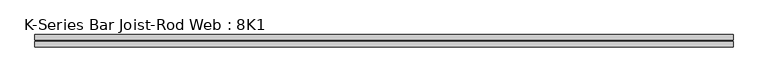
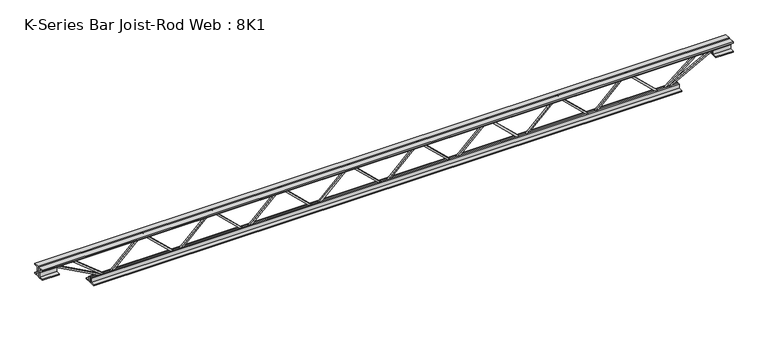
"""IFC4 building model written with IfcOpenShell, lengths in millimetres: beam geometry, K-Series Bar Joist-Rod Web : 8K1."""

from ifc_helpers import new_model, si_unit, frame, origin, place, context, project, spatial, polyline, outline, extrude, source, transform, mapped, element, save


def k_series_bar_joist_rod_web_8k1_5e61e8aa(model_context):
    return source(origin(), model_context, "Body", "SweptSolid", [
        extrude(outline(polyline([(-90.4875, 818.071879), (-100.0125, 818.071879), (-100.0125, 823.1647607), (90.4875, 1021.3327305), (90.4875, 1023.8469671), (-100.0125, 1222.0149368), (-100.0125, 1227.1078185), (-90.4875, 1227.1078185), (-90.4875, 1225.8507002), (100.0125, 1027.6827305), (100.0125, 1017.4969671), (-90.4875, 819.3289973), (-90.4875, 818.071879)])), frame((0.0, -4.7625, 0.0), z_axis=(0.0, 1.0, 0.0), x_axis=(0.0, 0.0, 1.0)), (0.0, 0.0, 1.0), 9.525),
        extrude(outline(polyline([(-90.4875, 409.0359395), (-100.0125, 409.0359395), (-100.0125, 414.1288212), (90.4875, 612.296791), (90.4875, 614.8110276), (-100.0125, 812.9789973), (-100.0125, 818.071879), (-90.4875, 818.071879), (-90.4875, 816.8147607), (100.0125, 618.646791), (100.0125, 608.4610276), (-90.4875, 410.2930578), (-90.4875, 409.0359395)])), frame((0.0, -4.7625, 0.0), z_axis=(0.0, 1.0, 0.0), x_axis=(0.0, 0.0, 1.0)), (0.0, 0.0, 1.0), 9.525),
        extrude(outline(polyline([(-90.4875, 0.0), (-100.0125, 0.0), (-100.0125, 5.0928817), (90.4875, 203.2608514), (90.4875, 205.7750881), (-100.0125, 403.9430578), (-100.0125, 409.0359395), (-90.4875, 409.0359395), (-90.4875, 407.7788212), (100.0125, 209.6108514), (100.0125, 199.4250881), (-90.4875, 1.2571183), (-90.4875, 0.0)])), frame((0.0, -4.7625, 0.0), z_axis=(0.0, 1.0, 0.0), x_axis=(0.0, 0.0, 1.0)), (0.0, 0.0, 1.0), 9.525),
        extrude(outline(polyline([(-90.4875, -409.0359395), (-100.0125, -409.0359395), (-100.0125, -403.9430578), (90.4875, -205.7750881), (90.4875, -203.2608514), (-100.0125, -5.0928817), (-100.0125, 0.0), (-90.4875, 0.0), (-90.4875, -1.2571183), (100.0125, -199.4250881), (100.0125, -209.6108514), (-90.4875, -407.7788212), (-90.4875, -409.0359395)])), frame((0.0, -4.7625, 0.0), z_axis=(0.0, 1.0, 0.0), x_axis=(0.0, 0.0, 1.0)), (0.0, 0.0, 1.0), 9.525),
        extrude(outline(polyline([(-90.4875, -818.071879), (-100.0125, -818.071879), (-100.0125, -812.9789973), (90.4875, -614.8110276), (90.4875, -612.296791), (-100.0125, -414.1288212), (-100.0125, -409.0359395), (-90.4875, -409.0359395), (-90.4875, -410.2930578), (100.0125, -608.4610276), (100.0125, -618.646791), (-90.4875, -816.8147607), (-90.4875, -818.071879)])), frame((0.0, -4.7625, 0.0), z_axis=(0.0, 1.0, 0.0), x_axis=(0.0, 0.0, 1.0)), (0.0, 0.0, 1.0), 9.525),
        extrude(outline(polyline([(-90.4875, -1227.1078185), (-100.0125, -1227.1078185), (-100.0125, -1222.0149368), (90.4875, -1023.8469671), (90.4875, -1021.3327305), (-100.0125, -823.1647607), (-100.0125, -818.071879), (-90.4875, -818.071879), (-90.4875, -819.3289973), (100.0125, -1017.4969671), (100.0125, -1027.6827305), (-90.4875, -1225.8507002), (-90.4875, -1227.1078185)])), frame((0.0, -4.7625, 0.0), z_axis=(0.0, 1.0, 0.0), x_axis=(0.0, 0.0, 1.0)), (0.0, 0.0, 1.0), 9.525),
        extrude(outline(polyline([(-90.4875, 1227.1078185), (-100.0125, 1227.1078185), (-100.0125, 1232.2007002), (90.4875, 1430.36867), (90.4875, 1432.8829066), (-100.0125, 1631.0508764), (-100.0125, 1636.143758), (-90.4875, 1636.143758), (-90.4875, 1634.8866397), (100.0125, 1436.71867), (100.0125, 1426.5329066), (-90.4875, 1228.3649368), (-90.4875, 1227.1078185)])), frame((0.0, -4.7625, 0.0), z_axis=(0.0, 1.0, 0.0), x_axis=(0.0, 0.0, 1.0)), (0.0, 0.0, 1.0), 9.525),
        extrude(outline(polyline([(-90.4875, -1636.143758), (-100.0125, -1636.143758), (-100.0125, -1631.0508764), (90.4875, -1432.8829066), (90.4875, -1430.36867), (-100.0125, -1232.2007002), (-100.0125, -1227.1078185), (-90.4875, -1227.1078185), (-90.4875, -1228.3649368), (100.0125, -1426.5329066), (100.0125, -1436.71867), (-90.4875, -1634.8866397), (-90.4875, -1636.143758)])), frame((0.0, -4.7625, 0.0), z_axis=(0.0, 1.0, 0.0), x_axis=(0.0, 0.0, 1.0)), (0.0, 0.0, 1.0), 9.525),
        extrude(outline(polyline([(4.7625, 101.6), (36.5125, 101.6), (36.5125, 95.25), (11.1125, 95.25), (11.1125, 69.85), (4.7625, 69.85), (4.7625, 101.6)])), frame((-2042.543758, 0.0, 0.0), z_axis=(1.0, 0.0, 0.0), x_axis=(0.0, 1.0, 0.0)), (0.0, 0.0, 1.0), 4085.0875161),
        extrude(outline(polyline([(-4.7625, 101.6), (-4.7625, 69.85), (-11.1125, 69.85), (-11.1125, 95.25), (-36.5125, 95.25), (-36.5125, 101.6), (-4.7625, 101.6)])), frame((-2042.543758, 0.0, 0.0), z_axis=(1.0, 0.0, 0.0), x_axis=(0.0, 1.0, 0.0)), (0.0, 0.0, 1.0), 4085.0875161),
        extrude(outline(polyline([(-4.7625, 38.1), (-36.5125, 38.1), (-36.5125, 44.45), (-11.1125, 44.45), (-11.1125, 69.85), (-4.7625, 69.85), (-4.7625, 38.1)])), frame((-2042.543758, 0.0, 0.0), z_axis=(1.0, 0.0, 0.0), x_axis=(0.0, 1.0, 0.0)), (0.0, 0.0, 1.0), 101.6),
        extrude(outline(polyline([(36.5125, 38.1), (4.7625, 38.1), (4.7625, 69.85), (11.1125, 69.85), (11.1125, 44.45), (36.5125, 44.45), (36.5125, 38.1)])), frame((-2042.543758, 0.0, 0.0), z_axis=(1.0, 0.0, 0.0), x_axis=(0.0, 1.0, 0.0)), (0.0, 0.0, 1.0), 101.6),
        extrude(outline(polyline([(4.7625, 38.1), (4.7625, 69.85), (11.1125, 69.85), (11.1125, 44.45), (36.5125, 44.45), (36.5125, 38.1), (4.7625, 38.1)])), frame((1940.943758, 0.0, 0.0), z_axis=(1.0, 0.0, 0.0), x_axis=(0.0, 1.0, 0.0)), (0.0, 0.0, 1.0), 101.6),
        extrude(outline(polyline([(-4.7625, 38.1), (-36.5125, 38.1), (-36.5125, 44.45), (-11.1125, 44.45), (-11.1125, 69.85), (-4.7625, 69.85), (-4.7625, 38.1)])), frame((1940.943758, 0.0, 0.0), z_axis=(1.0, 0.0, 0.0), x_axis=(0.0, 1.0, 0.0)), (0.0, 0.0, 1.0), 101.6),
        extrude(outline(polyline([(4.7625, -101.6), (4.7625, -69.85), (11.1125, -69.85), (11.1125, -95.25), (36.5125, -95.25), (36.5125, -101.6), (4.7625, -101.6)])), frame((-1737.743758, 0.0, 0.0), z_axis=(1.0, 0.0, 0.0), x_axis=(0.0, 1.0, 0.0)), (0.0, 0.0, 1.0), 3475.4875161),
        extrude(outline(polyline([(-4.7625, -101.6), (-36.5125, -101.6), (-36.5125, -95.25), (-11.1125, -95.25), (-11.1125, -69.85), (-4.7625, -69.85), (-4.7625, -101.6)])), frame((-1737.743758, 0.0, 0.0), z_axis=(1.0, 0.0, 0.0), x_axis=(0.0, 1.0, 0.0)), (0.0, 0.0, 1.0), 3475.4875161),
        extrude(outline(polyline([(0.0, -9.525), (0.0, 0.0), (346.6425392, 0.0), (346.6425392, -9.525), (0.0, -9.525)])), frame((-1943.2120565, 4.7625, 65.662372), z_axis=(0.47628314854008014, 0.0, 0.8792919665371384), x_axis=(0.8792919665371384, 0.0, -0.47628314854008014)), (0.0, 0.0, 1.0), 9.525),
        extrude(outline(polyline([(0.0, -9.525), (0.0, 0.0), (262.841416, 0.0), (262.841416, -9.525), (0.0, -9.525)])), frame((-1843.6532227, 4.7625, 66.1442795), z_axis=(0.6281354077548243, 0.0, 0.7781040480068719), x_axis=(0.7781040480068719, 0.0, -0.6281354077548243)), (0.0, 0.0, 1.0), 9.525),
        extrude(outline(polyline([(0.0, -9.525), (0.0, 0.0), (346.6425392, 0.0), (346.6425392, -9.525), (0.0, -9.525)])), frame((1943.2120565, -4.7625, 65.662372), z_axis=(-0.47628314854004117, 0.0, 0.8792919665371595), x_axis=(-0.8792919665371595, 0.0, -0.47628314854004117)), (0.0, 0.0, 1.0), 9.525),
        extrude(outline(polyline([(0.0, -9.525), (0.0, 0.0), (262.841416, 0.0), (262.841416, -9.525), (0.0, -9.525)])), frame((1843.6532227, -4.7625, 66.1442795), z_axis=(-0.6281354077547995, 0.0, 0.778104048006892), x_axis=(-0.778104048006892, 0.0, -0.6281354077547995)), (0.0, 0.0, 1.0), 9.525),
    ])


if __name__ == "__main__":
    model = new_model("IFC4")
    model_context = context("Model", 3, world=origin())
    ifc_project = project(units=[si_unit("LENGTHUNIT", "METRE", prefix="MILLI")], contexts=[model_context])
    site = spatial("IfcSite", under=ifc_project)
    building = spatial("IfcBuilding", under=site)
    placement = place(None, origin())
    k_series_bar_joist_rod_web_8k1_shape = k_series_bar_joist_rod_web_8k1_5e61e8aa(model_context)
    element("IfcBeam", 1, ObjectType="K-Series Bar Joist-Rod Web : 8K1", at=placement, inside=building, context=model_context, shape_type="MappedRepresentation", body=[
        mapped(k_series_bar_joist_rod_web_8k1_shape, transform((0.0, 0.0, 0.0), x_axis=(1.0, 0.0, 0.0), y_axis=(0.0, 1.0, 0.0), z_axis=(0.0, 0.0, 1.0))),
    ])
    save(model, "model.ifc")
